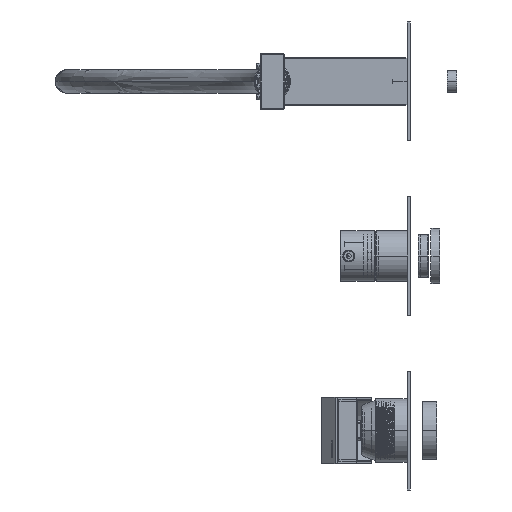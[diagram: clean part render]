
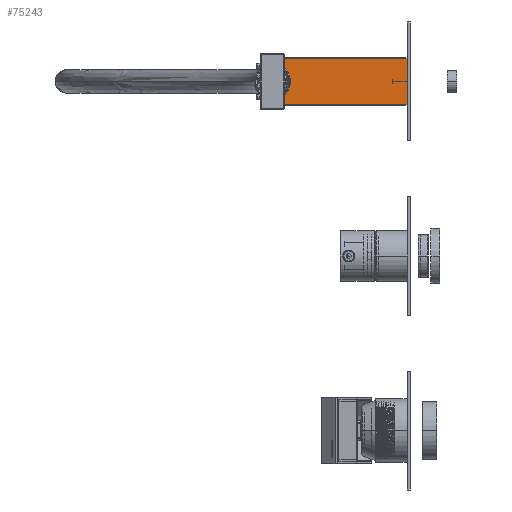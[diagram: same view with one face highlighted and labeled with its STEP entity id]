
A CAD part, left-side view. The second image highlights one B-rep face of the part: STEP entity #75243.
In plain terms, the highlighted planar face has unit normal (-1, 0, 0) as drawn and (0, -1, 0) by its records, which use the part's own axes.
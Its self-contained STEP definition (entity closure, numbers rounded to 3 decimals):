
#73878=DIRECTION('',(0.,0.,1.));
#73879=VECTOR('',#73878,29.);
#73880=CARTESIAN_POINT('',(0.,-11.,-14.5));
#73881=LINE('',#73880,#73879);
#74305=DIRECTION('',(-1.,0.,0.));
#74306=VECTOR('',#74305,88.1);
#74307=CARTESIAN_POINT('',(88.1,-11.,-14.5));
#74308=LINE('',#74307,#74306);
#74309=DIRECTION('',(1.,0.,0.));
#74310=VECTOR('',#74309,88.109);
#74311=CARTESIAN_POINT('',(0.,-11.,14.5));
#74312=LINE('',#74311,#74310);
#74313=DIRECTION('',(0.,0.,1.));
#74314=VECTOR('',#74313,3.318);
#74315=CARTESIAN_POINT('',(88.109,-11.,11.182));
#74316=LINE('',#74315,#74314);
#74317=CARTESIAN_POINT('',(85.,-11.,0.));
#74318=DIRECTION('',(0.,1.,0.));
#74319=DIRECTION('',(0.267,0.,-0.964));
#74320=AXIS2_PLACEMENT_3D('',#74317,#74318,#74319);
#74322=DIRECTION('',(0.,0.,1.));
#74323=VECTOR('',#74322,3.316);
#74324=CARTESIAN_POINT('',(88.1,-11.,-14.5));
#74325=LINE('',#74324,#74323);
#74581=CARTESIAN_POINT('',(0.,-11.,-14.5));
#74583=VERTEX_POINT('',#74581);
#74588=CARTESIAN_POINT('',(0.,-11.,14.5));
#74590=VERTEX_POINT('',#74588);
#74596=CARTESIAN_POINT('',(88.1,-11.,-14.5));
#74597=VERTEX_POINT('',#74596);
#74604=CARTESIAN_POINT('',(88.109,-11.,14.5));
#74605=VERTEX_POINT('',#74604);
#74624=CARTESIAN_POINT('',(88.1,-11.,-11.184));
#74625=CARTESIAN_POINT('',(88.109,-11.,11.182));
#74626=VERTEX_POINT('',#74624);
#74627=VERTEX_POINT('',#74625);
#75226=CARTESIAN_POINT('',(0.,-11.,-15.));
#75227=DIRECTION('',(0.,1.,0.));
#75228=DIRECTION('',(1.,0.,0.));
#75229=AXIS2_PLACEMENT_3D('',#75226,#75227,#75228);
#75230=PLANE('',#75229);
#75231=ORIENTED_EDGE('',*,*,#75217,.T.);
#75232=ORIENTED_EDGE('',*,*,#74673,.T.);
#75234=ORIENTED_EDGE('',*,*,#75233,.T.);
#75236=ORIENTED_EDGE('',*,*,#75235,.F.);
#75238=ORIENTED_EDGE('',*,*,#75237,.F.);
#75240=ORIENTED_EDGE('',*,*,#75239,.F.);
#75241=EDGE_LOOP('',(#75231,#75232,#75234,#75236,#75238,#75240));
#75242=FACE_OUTER_BOUND('',#75241,.F.);
#75243=ADVANCED_FACE('',(#75242),#75230,.F.);
#74321=CIRCLE('',#74320,11.606);
#74673=EDGE_CURVE('',#74583,#74590,#73881,.T.);
#75217=EDGE_CURVE('',#74597,#74583,#74308,.T.);
#75233=EDGE_CURVE('',#74590,#74605,#74312,.T.);
#75235=EDGE_CURVE('',#74627,#74605,#74316,.T.);
#75237=EDGE_CURVE('',#74626,#74627,#74321,.T.);
#75239=EDGE_CURVE('',#74597,#74626,#74325,.T.);
